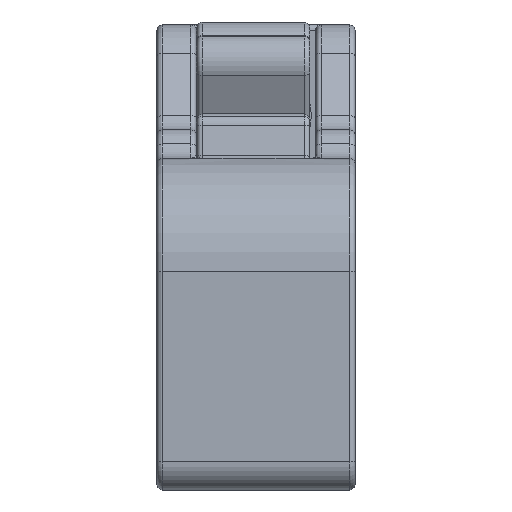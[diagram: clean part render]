
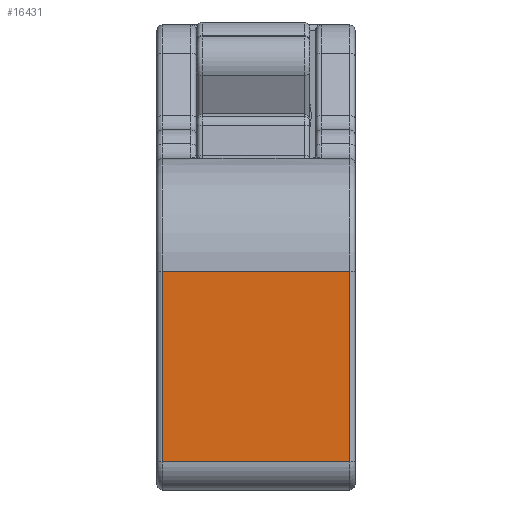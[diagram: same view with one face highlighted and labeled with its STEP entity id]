
A CAD part, left-side view. The second image highlights one B-rep face of the part: STEP entity #16431.
In plain terms, the highlighted planar face has unit normal (-1, 0, 0).
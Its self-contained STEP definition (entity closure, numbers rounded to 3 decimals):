
#4258=DIRECTION('',(0.,1.,0.));
#4259=VECTOR('',#4258,6.6);
#4260=CARTESIAN_POINT('',(-154.5,0.2,11.3));
#4261=LINE('',#4260,#4259);
#4310=DIRECTION('',(0.,0.,1.));
#4311=VECTOR('',#4310,6.7);
#4312=CARTESIAN_POINT('',(-154.5,0.2,4.6));
#4313=LINE('',#4312,#4311);
#4317=DIRECTION('',(0.,-1.,0.));
#4318=VECTOR('',#4317,6.6);
#4319=CARTESIAN_POINT('',(-154.5,6.8,4.6));
#4320=LINE('',#4319,#4318);
#4324=DIRECTION('',(0.,0.,-1.));
#4325=VECTOR('',#4324,6.7);
#4326=CARTESIAN_POINT('',(-154.5,6.8,11.3));
#4327=LINE('',#4326,#4325);
#10929=CARTESIAN_POINT('',(-154.5,0.2,11.3));
#10931=VERTEX_POINT('',#10929);
#10935=CARTESIAN_POINT('',(-154.5,0.2,4.6));
#10936=VERTEX_POINT('',#10935);
#10984=CARTESIAN_POINT('',(-154.5,6.8,4.6));
#10985=VERTEX_POINT('',#10984);
#10988=CARTESIAN_POINT('',(-154.5,6.8,11.3));
#10989=VERTEX_POINT('',#10988);
#16418=CARTESIAN_POINT('',(-154.5,0.,0.));
#16419=DIRECTION('',(-1.,0.,0.));
#16420=DIRECTION('',(0.,-1.,0.));
#16421=AXIS2_PLACEMENT_3D('',#16418,#16419,#16420);
#16422=PLANE('',#16421);
#16423=ORIENTED_EDGE('',*,*,#16402,.F.);
#16425=ORIENTED_EDGE('',*,*,#16424,.F.);
#16427=ORIENTED_EDGE('',*,*,#16426,.F.);
#16428=ORIENTED_EDGE('',*,*,#16339,.F.);
#16429=EDGE_LOOP('',(#16423,#16425,#16427,#16428));
#16430=FACE_OUTER_BOUND('',#16429,.F.);
#16339=EDGE_CURVE('',#10931,#10989,#4261,.T.);
#16402=EDGE_CURVE('',#10936,#10931,#4313,.T.);
#16424=EDGE_CURVE('',#10985,#10936,#4320,.T.);
#16426=EDGE_CURVE('',#10989,#10985,#4327,.T.);
#16431=ADVANCED_FACE('',(#16430),#16422,.T.);
